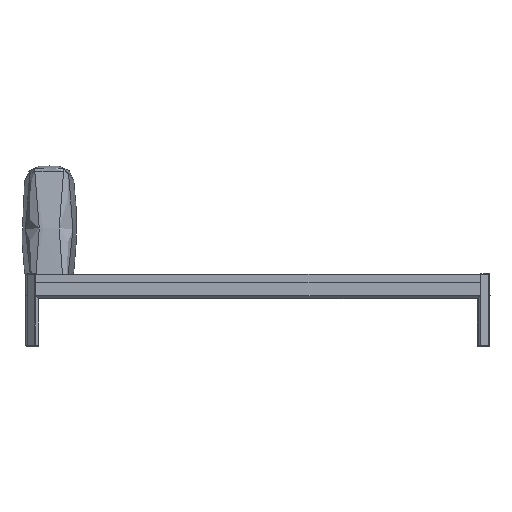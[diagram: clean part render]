
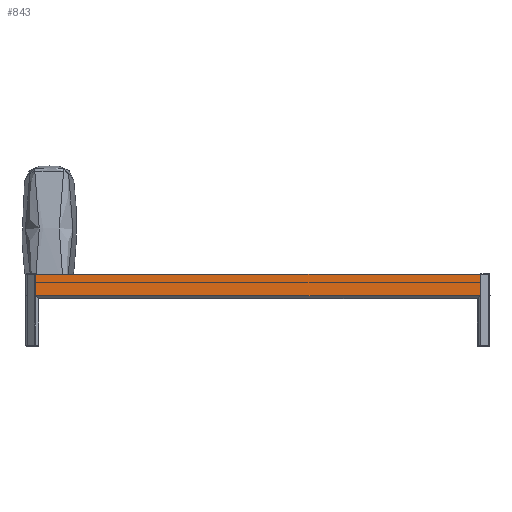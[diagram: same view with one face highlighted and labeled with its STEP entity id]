
A CAD part, left-side view. The second image highlights one B-rep face of the part: STEP entity #843.
In plain terms, the highlighted planar face has unit normal (-1, 0, 0).
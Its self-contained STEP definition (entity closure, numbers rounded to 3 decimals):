
#843=ADVANCED_FACE('',(#1489),#9865,.T.);
#1489=FACE_OUTER_BOUND('',#2147,.T.);
#2147=EDGE_LOOP('',(#4798,#4799,#4800,#4801,#4802,#4803));
#4798=ORIENTED_EDGE('',*,*,#6663,.F.);
#4799=ORIENTED_EDGE('',*,*,#6676,.F.);
#4800=ORIENTED_EDGE('',*,*,#6652,.F.);
#4801=ORIENTED_EDGE('',*,*,#6644,.F.);
#4802=ORIENTED_EDGE('',*,*,#6674,.F.);
#4803=ORIENTED_EDGE('',*,*,#6656,.F.);
#6644=EDGE_CURVE('',#9317,#9318,#8424,.T.);
#6652=EDGE_CURVE('',#9318,#9326,#8432,.T.);
#6656=EDGE_CURVE('',#9330,#9331,#8436,.T.);
#6663=EDGE_CURVE('',#9339,#9330,#8443,.T.);
#6674=EDGE_CURVE('',#9331,#9317,#7715,.T.);
#6676=EDGE_CURVE('',#9326,#9339,#8447,.T.);
#7715=(
BOUNDED_CURVE()
B_SPLINE_CURVE(1,(#18540,#18541),.UNSPECIFIED.,.F.,.F.)
B_SPLINE_CURVE_WITH_KNOTS((2,2),(0.,2118.4),.UNSPECIFIED.)
CURVE()
GEOMETRIC_REPRESENTATION_ITEM()
RATIONAL_B_SPLINE_CURVE((1.,1.))
REPRESENTATION_ITEM('')
);
#8424=B_SPLINE_CURVE_WITH_KNOTS('',1,(#18416,#18417),.UNSPECIFIED.,.F.,
 .F.,(2,2),(0.,100.963),.UNSPECIFIED.);
#8432=B_SPLINE_CURVE_WITH_KNOTS('',1,(#18446,#18447),.UNSPECIFIED.,.F.,
 .F.,(2,2),(0.,0.017),.UNSPECIFIED.);
#8436=B_SPLINE_CURVE_WITH_KNOTS('',1,(#18468,#18469),.UNSPECIFIED.,.F.,
 .F.,(2,2),(0.,100.963),.UNSPECIFIED.);
#8443=B_SPLINE_CURVE_WITH_KNOTS('',1,(#18510,#18511),.UNSPECIFIED.,.F.,
 .F.,(2,2),(0.,0.017),.UNSPECIFIED.);
#8447=B_SPLINE_CURVE_WITH_KNOTS('',1,(#18544,#18545),.UNSPECIFIED.,.F.,
 .F.,(2,2),(0.,2118.376),.UNSPECIFIED.);
#9317=VERTEX_POINT('',#18391);
#9318=VERTEX_POINT('',#18392);
#9326=VERTEX_POINT('',#18400);
#9330=VERTEX_POINT('',#18404);
#9331=VERTEX_POINT('',#18405);
#9339=VERTEX_POINT('',#18413);
#9865=PLANE('',#10422);
#10422=AXIS2_PLACEMENT_3D('',#18385,#10946,$);
#10946=DIRECTION('',(-1.,0.,0.));
#18385=CARTESIAN_POINT('',(-1205.5,1174.552,227.32));
#18391=CARTESIAN_POINT('',(-1205.5,-1155.7,338.404));
#18392=CARTESIAN_POINT('',(-1205.5,-1155.7,237.441));
#18400=CARTESIAN_POINT('',(-1205.5,-1155.688,237.429));
#18404=CARTESIAN_POINT('',(-1205.5,962.7,237.441));
#18405=CARTESIAN_POINT('',(-1205.5,962.7,338.404));
#18413=CARTESIAN_POINT('',(-1205.5,962.688,237.429));
#18416=CARTESIAN_POINT('',(-1205.5,-1155.7,338.404));
#18417=CARTESIAN_POINT('',(-1205.5,-1155.7,237.441));
#18446=CARTESIAN_POINT('',(-1205.5,-1155.7,237.441));
#18447=CARTESIAN_POINT('',(-1205.5,-1155.688,237.429));
#18468=CARTESIAN_POINT('',(-1205.5,962.7,237.441));
#18469=CARTESIAN_POINT('',(-1205.5,962.7,338.404));
#18510=CARTESIAN_POINT('',(-1205.5,962.688,237.429));
#18511=CARTESIAN_POINT('',(-1205.5,962.7,237.441));
#18540=CARTESIAN_POINT('',(-1205.5,962.7,338.404));
#18541=CARTESIAN_POINT('',(-1205.5,-1155.7,338.404));
#18544=CARTESIAN_POINT('',(-1205.5,-1155.688,237.429));
#18545=CARTESIAN_POINT('',(-1205.5,962.688,237.429));
